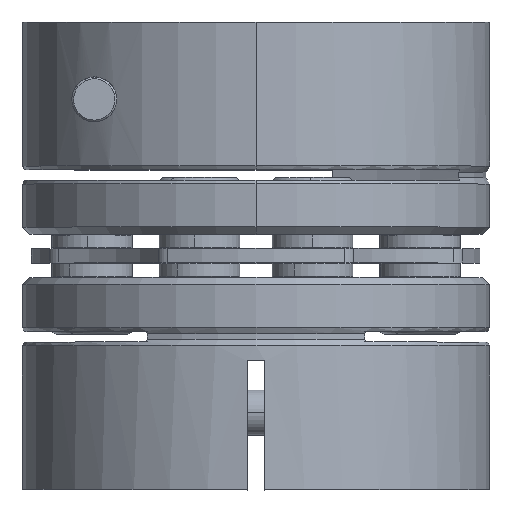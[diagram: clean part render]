
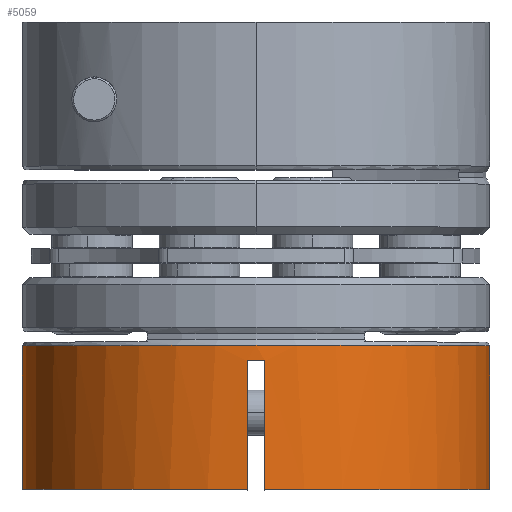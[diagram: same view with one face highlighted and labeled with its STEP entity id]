
A CAD part, top view. The second image highlights one B-rep face of the part: STEP entity #5059.
In plain terms, the highlighted cylindrical face has radius 13 mm (diameter 26 mm), a partial arc.
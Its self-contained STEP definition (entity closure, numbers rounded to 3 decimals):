
#143 = LINE ( 'NONE', #13321, #5162 ) ;
#276 = CARTESIAN_POINT ( 'NONE',  ( 1.755, -26.289, 0. ) ) ;
#579 = DIRECTION ( 'NONE',  ( -1., 0., 0. ) ) ;
#841 = AXIS2_PLACEMENT_3D ( 'NONE', #18154, #2231, #14757 ) ;
#2063 = CARTESIAN_POINT ( 'NONE',  ( 14.755, -18.289, 0. ) ) ;
#2089 = DIRECTION ( 'NONE',  ( 0., -1., 0. ) ) ;
#2231 = DIRECTION ( 'NONE',  ( 0., -1., 0. ) ) ;
#2289 = EDGE_CURVE ( 'NONE', #9014, #4870, #11092, .T. ) ;
#2659 = DIRECTION ( 'NONE',  ( 0., 1., 0. ) ) ;
#2740 = CARTESIAN_POINT ( 'NONE',  ( 2.255, -14.489, 12.99 ) ) ;
#2970 = EDGE_CURVE ( 'NONE', #18809, #12615, #21352, .T. ) ;
#4335 = ORIENTED_EDGE ( 'NONE', *, *, #14179, .F. ) ;
#4585 = VECTOR ( 'NONE', #12151, 1000. ) ;
#4870 = VERTEX_POINT ( 'NONE', #2063 ) ;
#5059 = ADVANCED_FACE ( 'NONE', ( #9280 ), #18176, .T. ) ;
#5162 = VECTOR ( 'NONE', #2659, 1000. ) ;
#5357 = CIRCLE ( 'NONE', #841, 13. ) ;
#5400 = ORIENTED_EDGE ( 'NONE', *, *, #20533, .T. ) ;
#5475 = CARTESIAN_POINT ( 'NONE',  ( 1.589, -19.16, 13.003 ) ) ;
#5670 = DIRECTION ( 'NONE',  ( 1., 0., 0. ) ) ;
#7264 = CARTESIAN_POINT ( 'NONE',  ( 1.255, -26.289, 12.99 ) ) ;
#7295 = ORIENTED_EDGE ( 'NONE', *, *, #20561, .T. ) ;
#7472 = CARTESIAN_POINT ( 'NONE',  ( 2.255, -19.154, 12.99 ) ) ;
#7487 = B_SPLINE_CURVE_WITH_KNOTS ( 'NONE', 3,
 ( #19616, #5475, #9273, #7472 ),
 .UNSPECIFIED., .F., .F.,
 ( 4, 4 ),
 ( 0., 0.001 ),
 .UNSPECIFIED. ) ;
#7798 = VERTEX_POINT ( 'NONE', #17736 ) ;
#8095 = VERTEX_POINT ( 'NONE', #8770 ) ;
#8151 = AXIS2_PLACEMENT_3D ( 'NONE', #16125, #16514, #579 ) ;
#8635 = EDGE_CURVE ( 'NONE', #18809, #7798, #7487, .T. ) ;
#8770 = CARTESIAN_POINT ( 'NONE',  ( -11.245, -26.289, 0. ) ) ;
#8918 = CIRCLE ( 'NONE', #21561, 13. ) ;
#8923 = EDGE_CURVE ( 'NONE', #12615, #8095, #5357, .T. ) ;
#9014 = VERTEX_POINT ( 'NONE', #21880 ) ;
#9273 = CARTESIAN_POINT ( 'NONE',  ( 1.922, -19.16, 13.003 ) ) ;
#9280 = FACE_OUTER_BOUND ( 'NONE', #17346, .T. ) ;
#9730 = DIRECTION ( 'NONE',  ( 0., -1., 0. ) ) ;
#9874 = DIRECTION ( 'NONE',  ( 0., -1., 0. ) ) ;
#10419 = ORIENTED_EDGE ( 'NONE', *, *, #2970, .F. ) ;
#10773 = AXIS2_PLACEMENT_3D ( 'NONE', #21037, #15733, #22649 ) ;
#11008 = LINE ( 'NONE', #2740, #19032 ) ;
#11092 = CIRCLE ( 'NONE', #8151, 13. ) ;
#12151 = DIRECTION ( 'NONE',  ( 0., 1., 0. ) ) ;
#12615 = VERTEX_POINT ( 'NONE', #7264 ) ;
#13321 = CARTESIAN_POINT ( 'NONE',  ( 14.755, -56.94, 0. ) ) ;
#13972 = CARTESIAN_POINT ( 'NONE',  ( 2.255, -26.289, 12.99 ) ) ;
#14179 = EDGE_CURVE ( 'NONE', #8095, #9014, #22630, .T. ) ;
#14389 = VERTEX_POINT ( 'NONE', #21918 ) ;
#14757 = DIRECTION ( 'NONE',  ( 1., 0., 0. ) ) ;
#15250 = CARTESIAN_POINT ( 'NONE',  ( 1.255, -14.489, 12.99 ) ) ;
#15733 = DIRECTION ( 'NONE',  ( 0., 1., 0. ) ) ;
#15738 = ORIENTED_EDGE ( 'NONE', *, *, #8923, .F. ) ;
#16125 = CARTESIAN_POINT ( 'NONE',  ( 1.755, -18.289, 0. ) ) ;
#16319 = ORIENTED_EDGE ( 'NONE', *, *, #2289, .F. ) ;
#16514 = DIRECTION ( 'NONE',  ( 0., 1., 0. ) ) ;
#17346 = EDGE_LOOP ( 'NONE', ( #20155, #5400, #16319, #4335, #15738, #10419, #18968, #7295 ) ) ;
#17736 = CARTESIAN_POINT ( 'NONE',  ( 2.255, -19.154, 12.99 ) ) ;
#18154 = CARTESIAN_POINT ( 'NONE',  ( 1.755, -26.289, 0. ) ) ;
#18176 = CYLINDRICAL_SURFACE ( 'NONE', #10773, 13. ) ;
#18809 = VERTEX_POINT ( 'NONE', #21422 ) ;
#18968 = ORIENTED_EDGE ( 'NONE', *, *, #8635, .T. ) ;
#19032 = VECTOR ( 'NONE', #9874, 1000. ) ;
#19616 = CARTESIAN_POINT ( 'NONE',  ( 1.255, -19.154, 12.99 ) ) ;
#19966 = VECTOR ( 'NONE', #9730, 1000. ) ;
#20155 = ORIENTED_EDGE ( 'NONE', *, *, #22410, .F. ) ;
#20533 = EDGE_CURVE ( 'NONE', #14389, #4870, #143, .T. ) ;
#20561 = EDGE_CURVE ( 'NONE', #7798, #22712, #11008, .T. ) ;
#21037 = CARTESIAN_POINT ( 'NONE',  ( 1.755, -56.94, 0. ) ) ;
#21092 = CARTESIAN_POINT ( 'NONE',  ( -11.245, -56.94, 0. ) ) ;
#21352 = LINE ( 'NONE', #15250, #19966 ) ;
#21422 = CARTESIAN_POINT ( 'NONE',  ( 1.255, -19.154, 12.99 ) ) ;
#21561 = AXIS2_PLACEMENT_3D ( 'NONE', #276, #2089, #5670 ) ;
#21880 = CARTESIAN_POINT ( 'NONE',  ( -11.245, -18.289, 0. ) ) ;
#21918 = CARTESIAN_POINT ( 'NONE',  ( 14.755, -26.289, 0. ) ) ;
#22410 = EDGE_CURVE ( 'NONE', #14389, #22712, #8918, .T. ) ;
#22630 = LINE ( 'NONE', #21092, #4585 ) ;
#22649 = DIRECTION ( 'NONE',  ( -1., 0., 0. ) ) ;
#22712 = VERTEX_POINT ( 'NONE', #13972 ) ;
